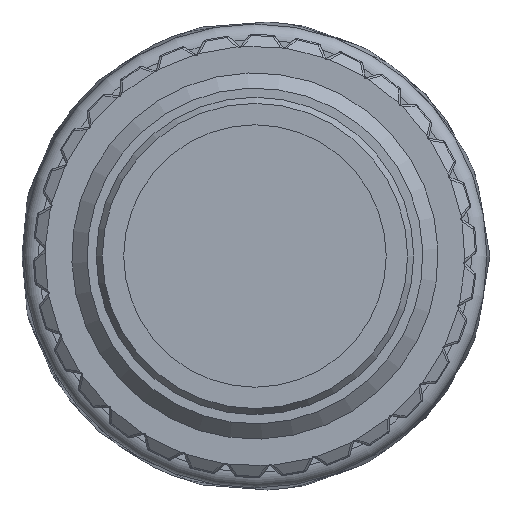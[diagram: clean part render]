
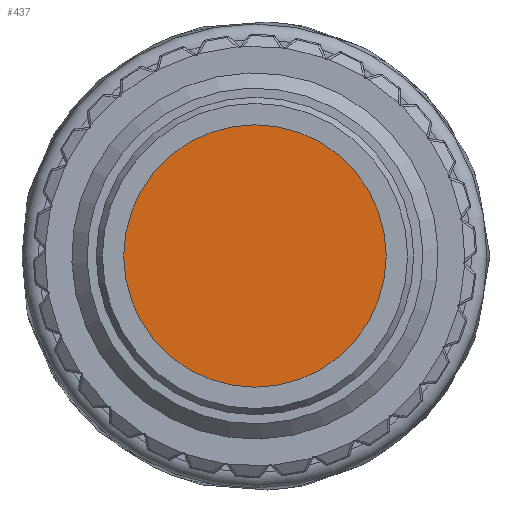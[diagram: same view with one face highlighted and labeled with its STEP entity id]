
A CAD part, left-side view. The second image highlights one B-rep face of the part: STEP entity #437.
In plain terms, the highlighted planar face has unit normal (-1, 0, 0).
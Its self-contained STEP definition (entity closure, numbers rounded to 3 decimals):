
#421=CARTESIAN_POINT('',(14.5,2.15,0.0));
#422=DIRECTION('',(-1.,0.,0.0));
#423=DIRECTION('',(0.0,0.0,1.0));
#424=AXIS2_PLACEMENT_3D('',#421,#422,#423);
#425=PLANE('',#424);
#426=CARTESIAN_POINT('',(14.5,4.3,0.0));
#427=VERTEX_POINT('',#426);
#428=CARTESIAN_POINT('',(14.5,0.,0.0));
#429=DIRECTION('',(1.,0.,0.0));
#430=DIRECTION('',(0.,1.,0.0));
#431=AXIS2_PLACEMENT_3D('',#428,#429,#430);
#432=CIRCLE('',#431,4.3);
#433=EDGE_CURVE('',#427,#427,#432,.T.);
#434=ORIENTED_EDGE('',*,*,#433,.F.);
#435=EDGE_LOOP('',(#434));
#436=FACE_OUTER_BOUND('',#435,.T.);
#437=ADVANCED_FACE('',(#436),#425,.T.);
